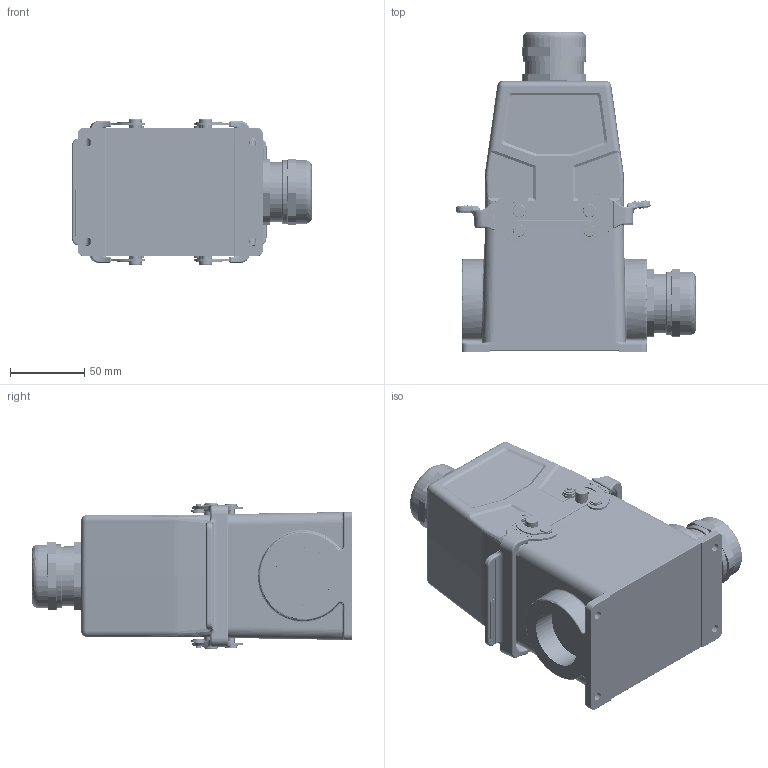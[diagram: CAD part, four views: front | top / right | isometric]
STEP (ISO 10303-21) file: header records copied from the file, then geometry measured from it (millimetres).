
FILE_DESCRIPTION (( 'STEP AP214' ), '1' );
FILE_NAME ('09032104232M HE、32针、表面底座、顶出M32套件、配金属接头.STEP', '2024-04-29T05:37:53', ( 'L' ), ( '' ), 'SwSTEP 2.0', 'SolidWorks 2019', '' );
FILE_SCHEMA (( 'AUTOMOTIVE_DESIGN' ));
Length unit declared in the file: millimetre
Products named in the file (8): HE-016-FD.stp; HE-016-MD.stp; HE-016-M.stp; 09032104232M HE、32针、表面底座、顶出M32套件、配金属接头; HE-016-F.stp; FAS-32-M.step; H32B-SGR-M32.step; H32B-TG-M32.step
Assembly tree (8 placements, depth 2):
  09032104232M HE、32针、表面底座、顶出M32套件、配金属接头
    HE-016-M.stp
    HE-016-F.stp
    HE-016-MD.stp
    HE-016-FD.stp
    H32B-TG-M32.step
    FAS-32-M.step  x2
    H32B-SGR-M32.step
Bounding box: 161.72 x 216.25 x 98.5 mm (x, y, z)
Volume: 701180.3 mm3; surface area: 311793.4 mm2
Topology: 8 solids, 13 shells, 13029 faces, 36136 edges, 23056 vertices
Faces by surface type: plane 6125, bspline 2505, cylinder 2287, cone 1466, torus 503, sphere 143
Entity records: 567967 total; most frequent: CARTESIAN_POINT 222035, ORIENTED_EDGE 70992, DIRECTION 53255, EDGE_CURVE 35496, VERTEX_POINT 22897, LINE 18185, VECTOR 18185, AXIS2_PLACEMENT_3D 17535
